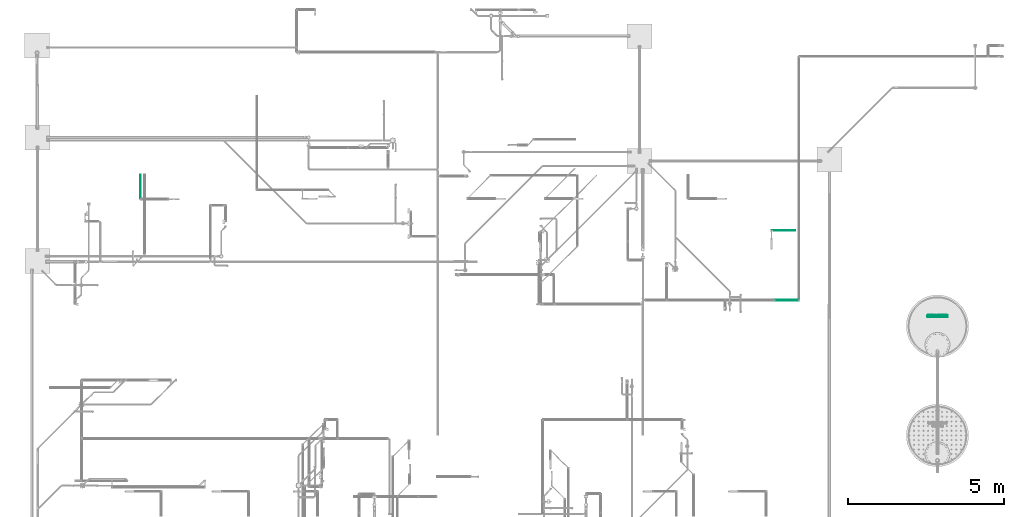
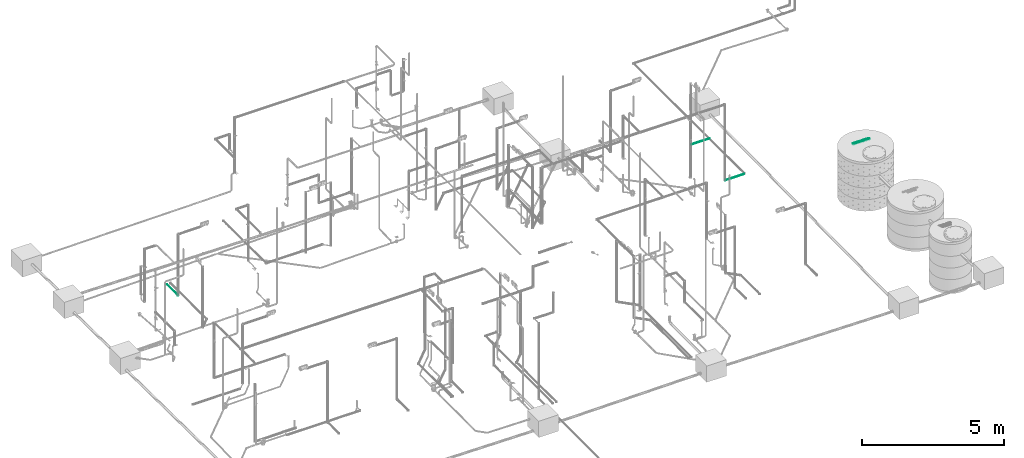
# One storey, part 234 of 589: 3 flow segments, 1 flow terminal.
"""IFC2X3 building model written with IfcOpenShell, lengths in millimetres."""

from ifc_helpers import new_model, entity, si_unit, converted_unit, derived_unit, direction, frame, frame_2d, origin, origin_2d_with_axis, place, context, subcontext, project, spatial, polyline, rectangle, circle, outline, extrude, source, transform, mapped, material, type_object, type_shapes, element, save


model = new_model("IFC2X3")

# Units and contexts
model_context = context("Model", 3, precision=0.01, world=origin(), true_north=direction((6.123031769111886e-17, 1.0)))
body_context = subcontext(model_context, "Body", "Model", "MODEL_VIEW")
ifc_project = project(units=[si_unit("LENGTHUNIT", "METRE", prefix="MILLI"), si_unit("AREAUNIT", "SQUARE_METRE"), si_unit("VOLUMEUNIT", "CUBIC_METRE"), converted_unit("PLANEANGLEUNIT", "DEGREE", entity("IfcRatioMeasure", 0.017453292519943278), si_unit("PLANEANGLEUNIT", "RADIAN"), dimensions=[0, 0, 0, 0, 0, 0, 0]), si_unit("MASSUNIT", "GRAM", prefix="KILO"), derived_unit("MASSDENSITYUNIT", [(si_unit("MASSUNIT", "GRAM", prefix="KILO"), 1), (si_unit("LENGTHUNIT", "METRE"), -3)]), derived_unit("IONCONCENTRATIONUNIT", [(si_unit("MASSUNIT", "GRAM", prefix="KILO"), 1), (si_unit("LENGTHUNIT", "METRE"), -3)]), derived_unit("MOMENTOFINERTIAUNIT", [(si_unit("LENGTHUNIT", "METRE"), 4)]), si_unit("TIMEUNIT", "SECOND"), si_unit("FREQUENCYUNIT", "HERTZ"), si_unit("THERMODYNAMICTEMPERATUREUNIT", "DEGREE_CELSIUS"), derived_unit("THERMALTRANSMITTANCEUNIT", [(si_unit("MASSUNIT", "GRAM", prefix="KILO"), 1), (si_unit("THERMODYNAMICTEMPERATUREUNIT", "KELVIN"), -1), (si_unit("TIMEUNIT", "SECOND"), -3)]), derived_unit("THERMALCONDUCTANCEUNIT", [(si_unit("MASSUNIT", "GRAM", prefix="KILO"), 1), (si_unit("THERMODYNAMICTEMPERATUREUNIT", "KELVIN"), -1), (si_unit("TIMEUNIT", "SECOND"), -3), (si_unit("LENGTHUNIT", "METRE"), 1)]), derived_unit("VOLUMETRICFLOWRATEUNIT", [(si_unit("LENGTHUNIT", "METRE"), 3), (si_unit("TIMEUNIT", "SECOND"), -1)]), derived_unit("MASSFLOWRATEUNIT", [(si_unit("MASSUNIT", "GRAM", prefix="KILO"), 1), (si_unit("TIMEUNIT", "SECOND"), -1)]), derived_unit("ROTATIONALFREQUENCYUNIT", [(si_unit("TIMEUNIT", "SECOND"), -1)]), si_unit("ELECTRICCURRENTUNIT", "AMPERE"), si_unit("ELECTRICVOLTAGEUNIT", "VOLT"), si_unit("POWERUNIT", "WATT"), si_unit("FORCEUNIT", "NEWTON", prefix="KILO"), si_unit("ILLUMINANCEUNIT", "LUX"), si_unit("LUMINOUSFLUXUNIT", "LUMEN"), si_unit("LUMINOUSINTENSITYUNIT", "CANDELA"), derived_unit("USERDEFINED", [(si_unit("MASSUNIT", "GRAM", prefix="KILO"), -1), (si_unit("LENGTHUNIT", "METRE"), -2), (si_unit("TIMEUNIT", "SECOND"), 3), (si_unit("LUMINOUSFLUXUNIT", "LUMEN"), 1)]), derived_unit("USERDEFINED", [(si_unit("MASSUNIT", "GRAM", prefix="KILO"), 1), (si_unit("TIMEUNIT", "SECOND"), -3), (si_unit("LENGTHUNIT", "METRE"), 3), (si_unit("ELECTRICCURRENTUNIT", "AMPERE"), -2)]), derived_unit("SOUNDPOWERUNIT", [(si_unit("MASSUNIT", "GRAM", prefix="KILO"), 1), (si_unit("TIMEUNIT", "SECOND"), -3), (si_unit("LENGTHUNIT", "METRE"), 2)]), derived_unit("SOUNDPRESSUREUNIT", [(si_unit("MASSUNIT", "GRAM", prefix="KILO"), 1), (si_unit("LENGTHUNIT", "METRE"), -1), (si_unit("TIMEUNIT", "SECOND"), -2)]), derived_unit("LINEARVELOCITYUNIT", [(si_unit("LENGTHUNIT", "METRE"), 1), (si_unit("TIMEUNIT", "SECOND"), -1)]), si_unit("PRESSUREUNIT", "PASCAL"), derived_unit("USERDEFINED", [(si_unit("MASSUNIT", "GRAM", prefix="KILO"), 1), (si_unit("LENGTHUNIT", "METRE"), -2), (si_unit("TIMEUNIT", "SECOND"), -2)]), derived_unit("LINEARFORCEUNIT", [(si_unit("MASSUNIT", "GRAM", prefix="KILO"), 1), (si_unit("TIMEUNIT", "SECOND"), -2)]), derived_unit("PLANARFORCEUNIT", [(si_unit("MASSUNIT", "GRAM", prefix="KILO"), 1), (si_unit("LENGTHUNIT", "METRE"), -1), (si_unit("TIMEUNIT", "SECOND"), -2)]), derived_unit("SPECIFICHEATCAPACITYUNIT", [(si_unit("THERMODYNAMICTEMPERATUREUNIT", "KELVIN"), -1), (si_unit("LENGTHUNIT", "METRE"), 2), (si_unit("TIMEUNIT", "SECOND"), -2)]), derived_unit("HEATINGVALUEUNIT", [(si_unit("LENGTHUNIT", "METRE"), 2), (si_unit("TIMEUNIT", "SECOND"), -2)]), derived_unit("VAPORPERMEABILITYUNIT", [(si_unit("LENGTHUNIT", "METRE"), -1), (si_unit("TIMEUNIT", "SECOND"), 1)]), derived_unit("DYNAMICVISCOSITYUNIT", [(si_unit("MASSUNIT", "GRAM", prefix="KILO"), 1), (si_unit("TIMEUNIT", "SECOND"), -1), (si_unit("LENGTHUNIT", "METRE"), -1)]), derived_unit("THERMALEXPANSIONCOEFFICIENTUNIT", [(si_unit("THERMODYNAMICTEMPERATUREUNIT", "KELVIN"), -1)]), derived_unit("MODULUSOFELASTICITYUNIT", [(si_unit("MASSUNIT", "GRAM", prefix="KILO"), 1), (si_unit("LENGTHUNIT", "METRE"), -1), (si_unit("TIMEUNIT", "SECOND"), -2)]), derived_unit("ISOTHERMALMOISTURECAPACITYUNIT", [(si_unit("LENGTHUNIT", "METRE"), 3), (si_unit("MASSUNIT", "GRAM", prefix="KILO"), -1)]), derived_unit("MOISTUREDIFFUSIVITYUNIT", [(si_unit("TIMEUNIT", "SECOND"), -1), (si_unit("LENGTHUNIT", "METRE"), 2)])], contexts=[model_context])

# Site, building, storey
site_placement = place(None, origin())
site = spatial("IfcSite", under=ifc_project, at=site_placement, Name="Default", CompositionType="ELEMENT")
building_placement = place(site_placement, origin())
building = spatial("IfcBuilding", under=site, at=building_placement, CompositionType="ELEMENT")
storey_placement = place(building_placement, frame((0.0, 0.0, 100.0)))
storey = spatial("IfcBuildingStorey", under=building, at=storey_placement, Name="TÉRREO", CompositionType="ELEMENT", Elevation=100.0)

# Flow segments
pipe_segment_type = type_object("IfcPipeSegmentType", Name="Tipos de tubos:PVC Marrom Soldável", PredefinedType="NOTDEFINED")
flow_segment_1_placement = place(storey_placement, origin())
element("IfcFlowSegment", 1, at=flow_segment_1_placement, inside=storey, type_object=pipe_segment_type, Name="Tipos de tubos:PVC Marrom Soldável", ObjectType="Tipos de tubos:PVC Marrom Soldável", context=body_context, shape_type="SweptSolid", body=[
    extrude(circle(Radius=12.5, at=frame_2d((9.610862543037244e-28, -8.444297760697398e-15), x_axis=(1.0, 0.0))), frame((-5474.131532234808, 1487.718132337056, -37.352537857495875), z_axis=(0.0, 1.0, 0.0), x_axis=(1.0, 0.0, 0.0)), (5.035971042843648e-09, 0.0, 1.0), 765.7130627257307),
])
flow_segment_2_placement = place(storey_placement, origin())
element("IfcFlowSegment", 2, at=flow_segment_2_placement, inside=storey, type_object=pipe_segment_type, Name="Tipos de tubos:PVC Marrom Soldável", ObjectType="Tipos de tubos:PVC Marrom Soldável", context=body_context, shape_type="SweptSolid", body=[
    extrude(circle(Radius=12.5, at=frame_2d((2.0967303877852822e-24, -8.459906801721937e-15), x_axis=(1.0, 0.0))), frame((14752.820936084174, 470.3599115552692, -37.35547032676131), z_axis=(1.0, 0.0, 0.0), x_axis=(0.0, -1.0, 0.0)), (5.17876230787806e-09, 0.0, 1.0), 744.5999967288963),
])
flow_segment_3_placement = place(storey_placement, origin())
element("IfcFlowSegment", 3, at=flow_segment_3_placement, inside=storey, type_object=pipe_segment_type, Name="Tipos de tubos:PVC Marrom Soldável", ObjectType="Tipos de tubos:PVC Marrom Soldável", context=body_context, shape_type="SweptSolid", body=[
    extrude(circle(Radius=12.5, at=origin_2d_with_axis()), frame((14838.120932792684, -1760.7814166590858, -250.0), z_axis=(1.0, 0.0, 0.0), x_axis=(0.0, -1.0, 0.0)), (0.0, 0.0, 1.0), 769.1999999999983),
])

# Flow terminal
ifc_material = material(Name="<Unnamed>")
distribution_element_type = type_object("IfcDistributionElementType", Name="Sumidouro_Rodrigo MEP:Sumidouro", material=ifc_material)
shared_shape = source(origin(), body_context, "Body", "SweptSolid", [
    extrude(outline(polyline([(2.5089585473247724, -33.62038017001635), (18.136428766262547, -33.62038017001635), (30.74803258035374, -25.62379822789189), (38.71383832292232, -9.599656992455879), (39.81272968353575, 5.567377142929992), (34.301979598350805, 17.676303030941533), (23.926779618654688, 24.275484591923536), (12.377658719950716, 24.351922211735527), (2.1062529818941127, 17.35265005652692), (-7.388104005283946, 1.9303545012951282), (-17.05303757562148, -12.044856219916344), (-24.475130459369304, -13.204696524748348), (-31.13727248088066, -6.725602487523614), (-30.56077190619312, 7.759728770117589), (-23.443624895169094, 20.3566485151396), (-12.19281186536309, 22.972424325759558), (-9.515081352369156, 32.447470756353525), (-22.43907364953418, 32.043155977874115), (-33.20229512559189, 24.29358823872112), (-40.140417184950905, 10.067340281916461), (-41.52836343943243, -4.708252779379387), (-36.67115500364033, -16.442634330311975), (-26.875271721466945, -22.75819209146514), (-16.705246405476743, -22.76462894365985), (-7.376839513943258, -16.697895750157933), (1.4929416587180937, -3.1674312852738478), (9.009776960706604, 9.606300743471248), (15.132430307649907, 14.830409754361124), (21.489626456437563, 14.732448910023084), (27.252821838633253, 10.835538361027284), (30.201905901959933, 3.0976374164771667), (29.13419304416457, -7.292045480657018), (23.637523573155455, -18.00880092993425), (15.533928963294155, -23.772197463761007), (5.186689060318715, -24.14533373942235), (2.5089585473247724, -33.62038017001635)])), frame((321.3653846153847, -302.482967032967, 0.0), z_axis=(0.0, 0.0, 1.0), x_axis=(0.9623094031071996, 0.2719570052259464, 0.0)), (0.0, 0.0, 1.0), 1.9999999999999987),
    extrude(outline(polyline([(-49.021002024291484, -20.183198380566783), (-49.02100202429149, -30.02935222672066), (-3.578694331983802, -30.02935222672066), (15.25784412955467, -27.356275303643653), (26.603997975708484, -17.72165991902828), (30.978997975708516, 0.5475708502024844), (27.171305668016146, 18.537955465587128), (16.142459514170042, 28.518724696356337), (-3.578694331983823, 31.509109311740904), (-49.02100202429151, 31.509109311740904), (-49.02100202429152, 21.662955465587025), (-3.9248481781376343, 21.662955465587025), (11.08476720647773, 19.7206477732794), (18.51745951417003, 13.047570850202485), (21.13284412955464, 1.470647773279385), (19.839574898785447, -8.543775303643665), (15.959767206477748, -15.202429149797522), (8.402074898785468, -18.93800607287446), (-3.924848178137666, -20.18319838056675), (-49.021002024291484, -20.183198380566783)])), frame((330.25177125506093, -226.33704453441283, 0.0), z_axis=(0.0, 0.0, -1.0), x_axis=(1.0, 0.0, 0.0)), (0.0, 0.0, -1.0), 2.0),
    extrude(outline(polyline([(-36.32564102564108, -34.13589743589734), (-26.479487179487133, -34.13589743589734), (-26.479487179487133, 34.78717948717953), (-6.691025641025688, -34.13589743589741), (6.655128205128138, -34.13589743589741), (26.443589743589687, 34.78717948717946), (26.443589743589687, -34.135897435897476), (36.28974358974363, -34.135897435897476), (36.28974358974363, 44.63333333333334), (19.34743589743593, 44.63333333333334), (3.5012820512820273, -9.924358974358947), (-0.01794871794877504, -22.482051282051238), (-3.2679487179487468, -10.885897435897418), (-19.383333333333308, 44.633333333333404), (-36.32564102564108, 44.633333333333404), (-36.32564102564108, -34.13589743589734)])), frame((325.8641025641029, -142.75128205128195, 0.0), z_axis=(0.0, 0.0, 1.0), x_axis=(0.0, 1.0, 0.0)), (0.0, 0.0, 1.0), 2.0),
    extrude(rectangle(XDim=9.846153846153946, YDim=78.76923076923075, at=origin_2d_with_axis()), frame((320.61538461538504, -83.07692307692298, 0.0), z_axis=(0.0, 0.0, 1.0), x_axis=(0.0, 1.0, 0.0)), (0.0, 0.0, 1.0), 2.0),
    extrude(outline(polyline([(-40.80368589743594, -37.376602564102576), (-12.32291666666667, -37.376602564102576), (0.3405448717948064, -36.030448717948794), (9.754006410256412, -32.07852564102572), (16.94631410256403, -24.93429487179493), (22.33092948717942, -13.463141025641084), (24.427083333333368, 2.43108974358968), (21.330929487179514, 21.161858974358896), (12.004006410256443, 34.62339743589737), (0.42708333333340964, 40.25801282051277), (-13.630608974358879, 41.39262820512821), (-40.80368589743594, 41.39262820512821), (-40.80368589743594, -37.376602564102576)]), holes=[polyline([(-30.957532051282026, -27.530448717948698), (-30.95753205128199, 31.546474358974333), (-13.803685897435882, 31.546474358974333), (0.15785256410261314, 29.969551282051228), (10.379006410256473, 21.23878205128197), (14.58092948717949, 2.5849358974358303), (12.436698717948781, -12.309294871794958), (6.44631410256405, -22.088141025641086), (-0.861378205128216, -26.107371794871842), (-13.534455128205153, -27.530448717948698), (-30.957532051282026, -27.530448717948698)])]), frame((322.62339743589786, -17.65785256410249, 0.0), z_axis=(0.0, 0.0, 1.0), x_axis=(0.0, 1.0, 0.0)), (0.0, 0.0, 1.0), 2.0),
    extrude(outline(polyline([(-5.014344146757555, -35.36286547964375), (15.101226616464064, -35.36286547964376), (32.30602401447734, -25.736980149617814), (41.957183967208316, -7.629411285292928), (41.499345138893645, 12.038781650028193), (30.646213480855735, 28.538720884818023), (10.8999721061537, 38.013533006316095), (-10.666676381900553, 38.26766729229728), (-27.757478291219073, 28.536693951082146), (-37.201996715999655, 10.598734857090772), (-37.879376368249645, -4.709820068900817), (-32.486153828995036, -18.28439063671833), (-21.40393959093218, -28.90779854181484), (-5.014344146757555, -35.36286547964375)]), holes=[polyline([(-2.7179707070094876, -25.78775920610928), (-16.618506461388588, -20.490983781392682), (-24.80692922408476, -12.292746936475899), (-28.16949853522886, -2.281999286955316), (-27.59247393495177, 8.452308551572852), (-20.638909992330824, 21.684007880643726), (-7.964383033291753, 28.808018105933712), (8.622342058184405, 28.43412466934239), (20.888478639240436, 23.61360398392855), (29.00949896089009, 15.73419898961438), (32.868270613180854, 5.725479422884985), (32.34766118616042, -5.482984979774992), (27.98266168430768, -15.646289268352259), (20.205013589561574, -22.96936989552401), (9.73228131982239, -26.62545162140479), (-2.7179707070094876, -25.78775920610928)])]), frame((318.63017751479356, 52.203772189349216, 0.0), z_axis=(0.0, 0.0, 1.0), x_axis=(0.9746563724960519, 0.2237072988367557, 0.0)), (0.0, 0.0, 1.0), 1.9999999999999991),
    extrude(outline(polyline([(-49.0210020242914, -20.1831983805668), (-49.021002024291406, -30.02935222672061), (-3.5786943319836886, -30.02935222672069), (15.257844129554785, -27.356275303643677), (26.60399797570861, -17.721659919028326), (30.978997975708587, 0.5475708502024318), (27.1713056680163, 18.537955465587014), (16.14245951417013, 28.518724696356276), (-3.578694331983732, 31.509109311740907), (-49.021002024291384, 31.50910931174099), (-49.0210020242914, 21.662955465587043), (-3.924848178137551, 21.66295546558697), (11.084767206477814, 19.720647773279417), (18.517459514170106, 13.047570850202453), (21.13284412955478, 1.4706477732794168), (19.839574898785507, -8.543775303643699), (15.959767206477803, -15.202429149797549), (8.402074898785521, -18.938006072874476), (-3.9248481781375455, -20.18319838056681), (-49.0210020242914, -20.1831983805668)])), frame((330.2517712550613, 136.7398785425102, 0.0), z_axis=(0.0, 0.0, -1.0), x_axis=(1.0, 0.0, 0.0)), (0.0, 0.0, -1.0), 2.0),
    extrude(outline(polyline([(-36.97165991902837, -35.30516194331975), (-27.125506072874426, -35.30516194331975), (-27.125506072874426, -0.8436234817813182), (-15.240890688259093, -0.8436234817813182), (-9.529352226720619, -1.1897773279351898), (-4.846659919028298, -3.0647773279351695), (0.3552631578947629, -8.17054655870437), (7.75910931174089, -18.97823886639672), (18.00910931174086, -35.305161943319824), (29.45141700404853, -35.305161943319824), (16.31680161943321, -13.959008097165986), (8.336032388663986, -3.824392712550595), (2.7398785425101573, 0.3871457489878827), (19.230263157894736, 7.714068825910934), (24.566801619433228, 21.906376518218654), (21.345647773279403, 33.8198380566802), (12.73026315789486, 41.339068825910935), (-3.0293522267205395, 43.46406882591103), (-36.97165991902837, 43.46406882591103), (-36.97165991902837, -35.30516194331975)]), holes=[polyline([(-27.125506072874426, 9.002530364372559), (-27.125506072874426, 33.61791497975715), (-2.6062753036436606, 33.61791497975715), (10.557186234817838, 30.214068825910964), (14.720647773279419, 21.54099190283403), (12.537955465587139, 14.858299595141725), (6.153340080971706, 10.396761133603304), (-5.087044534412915, 9.002530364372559), (-27.125506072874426, 9.002530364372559)])]), frame((324.694838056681, 220.97165991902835, 0.0), z_axis=(0.0, 0.0, 1.0), x_axis=(0.0, 1.0, 0.0)), (0.0, 0.0, 1.0), 2.0),
    extrude(outline(polyline([(-5.014344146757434, -35.36286547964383), (15.101226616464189, -35.36286547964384), (32.30602401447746, -25.736980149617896), (41.95718396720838, -7.629411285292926), (41.499345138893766, 12.038781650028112), (30.64621348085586, 28.538720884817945), (10.89997210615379, 38.01353300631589), (-10.666676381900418, 38.26766729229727), (-27.75747829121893, 28.53669395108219), (-37.201996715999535, 10.598734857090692), (-37.87937636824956, -4.709820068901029), (-32.48615382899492, -18.284390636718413), (-21.40393959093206, -28.907798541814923), (-5.014344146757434, -35.36286547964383)]), holes=[polyline([(-2.717970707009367, -25.787759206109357), (-16.618506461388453, -20.490983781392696), (-24.806929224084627, -12.292746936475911), (-28.16949853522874, -2.2819992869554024), (-27.592473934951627, 8.45230855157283), (-20.638909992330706, 21.684007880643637), (-7.964383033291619, 28.80801810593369), (8.622342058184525, 28.43412466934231), (20.88847863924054, 23.6136039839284), (29.009498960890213, 15.734198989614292), (32.86827061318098, 5.7254794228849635), (32.34766118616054, -5.482984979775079), (27.9826616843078, -15.646289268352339), (20.205013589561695, -22.969369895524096), (9.732281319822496, -26.625451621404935), (-2.717970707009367, -25.787759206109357)])]), frame((318.6301775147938, 294.66531065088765, 0.0), z_axis=(0.0, 0.0, 1.0), x_axis=(0.9746563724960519, 0.2237072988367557, 0.0)), (0.0, 0.0, 1.0), 1.9999999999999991),
])
type_shapes(distribution_element_type, [shared_shape])
flow_terminal_placement = place(storey_placement, frame((20055.66719650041, -2594.0021263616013, -100.0), z_axis=(0.0, 0.0, 1.0), x_axis=(0.0, 1.0, 0.0)))
element("IfcFlowTerminal", 4, at=flow_terminal_placement, inside=storey, type_object=distribution_element_type, material=ifc_material, Name="Sumidouro_Rodrigo MEP:Sumidouro", ObjectType="Sumidouro_Rodrigo MEP:Sumidouro", context=body_context, shape_type="MappedRepresentation", body=[
    mapped(shared_shape, transform((0.0, 0.0, 0.0), scale=1.0)),
])

save(model, "model.ifc")
